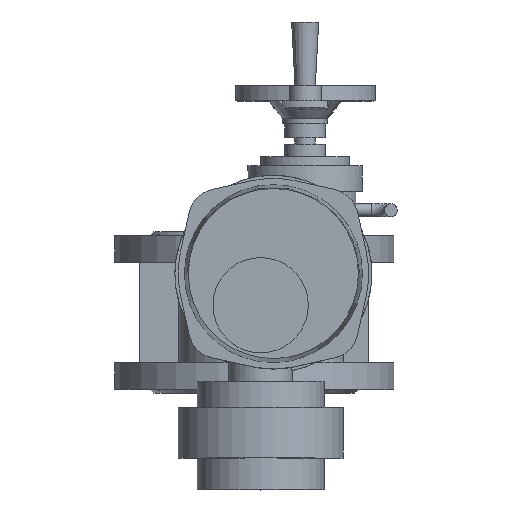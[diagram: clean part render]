
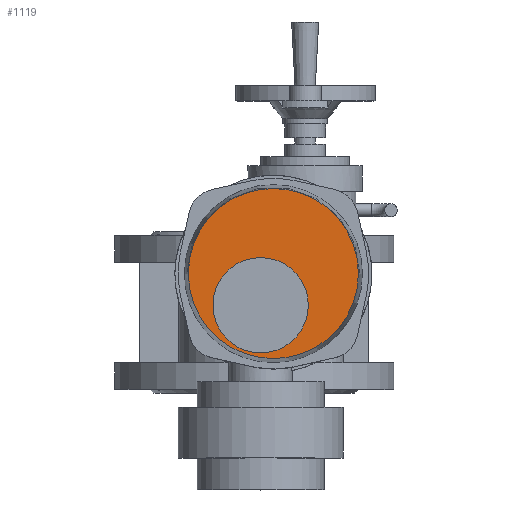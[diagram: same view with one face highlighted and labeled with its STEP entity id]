
A CAD part, top view. The second image highlights one B-rep face of the part: STEP entity #1119.
In plain terms, the highlighted planar face has unit normal (0, 0, 1).
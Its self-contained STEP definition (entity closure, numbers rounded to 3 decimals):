
#1119=ADVANCED_FACE('',(#2572,#2574),#2576,.T.);
#2572=FACE_BOUND('',#2573,.T.);
#2573=EDGE_LOOP('',(#3559));
#2574=FACE_BOUND('',#2575,.T.);
#2575=EDGE_LOOP('',(#3560));
#2576=PLANE('',#2577);
#2577=AXIS2_PLACEMENT_3D('',#2578,#2579,#2580);
#2578=CARTESIAN_POINT('',(15.,30.,388.));
#2579=DIRECTION('',(0.,0.,1.));
#2580=DIRECTION('',(-1.,0.,0.));
#3559=ORIENTED_EDGE('',*,*,#4080,.T.);
#3560=ORIENTED_EDGE('',*,*,#4169,.F.);
#4080=EDGE_CURVE('',#4675,#4675,#4676,.T.);
#4169=EDGE_CURVE('',#4833,#4833,#4834,.T.);
#4675=VERTEX_POINT('',#6756);
#4676=CIRCLE('',#6757,66.908);
#4833=VERTEX_POINT('',#8389);
#4834=CIRCLE('',#8390,37.5);
#6756=CARTESIAN_POINT('',(-51.908,30.,388.));
#6757=AXIS2_PLACEMENT_3D('',#6758,#6759,#6760);
#6758=CARTESIAN_POINT('',(15.,30.,388.));
#6759=DIRECTION('',(0.,0.,1.));
#6760=DIRECTION('',(-1.,0.,0.));
#8389=CARTESIAN_POINT('',(-32.5,5.,388.));
#8390=AXIS2_PLACEMENT_3D('',#8391,#8392,#8393);
#8391=CARTESIAN_POINT('',(5.,5.,388.));
#8392=DIRECTION('',(0.,0.,1.));
#8393=DIRECTION('',(-1.,0.,0.));
